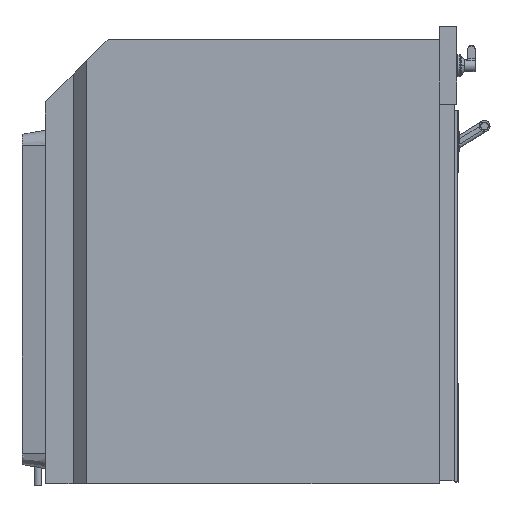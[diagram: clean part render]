
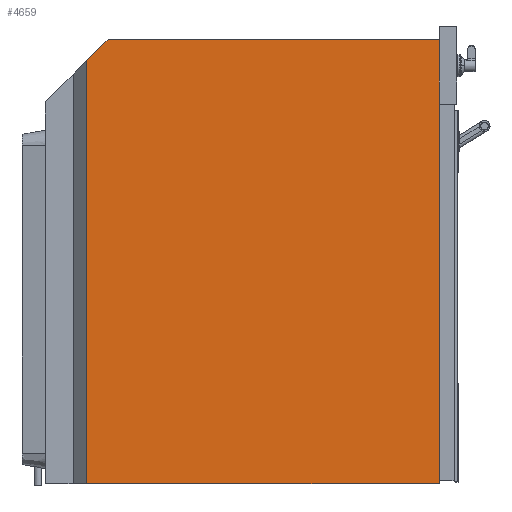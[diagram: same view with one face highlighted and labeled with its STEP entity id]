
A CAD part, left-side view. The second image highlights one B-rep face of the part: STEP entity #4659.
In plain terms, the highlighted planar face has unit normal (-1, 0, 0).
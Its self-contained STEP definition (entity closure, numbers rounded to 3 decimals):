
#230=LINE('',#11903,#566);
#231=LINE('',#11906,#567);
#232=LINE('',#11908,#568);
#233=LINE('',#11910,#569);
#234=LINE('',#11912,#570);
#566=VECTOR('',#6829,1000.);
#567=VECTOR('',#6830,1000.);
#568=VECTOR('',#6831,1000.);
#569=VECTOR('',#6832,1000.);
#570=VECTOR('',#6833,1000.);
#2085=ORIENTED_EDGE('',*,*,#2905,.F.);
#2086=ORIENTED_EDGE('',*,*,#2906,.F.);
#2087=ORIENTED_EDGE('',*,*,#2907,.F.);
#2088=ORIENTED_EDGE('',*,*,#2908,.T.);
#2089=ORIENTED_EDGE('',*,*,#2909,.T.);
#2905=EDGE_CURVE('',#3394,#3395,#230,.T.);
#2906=EDGE_CURVE('',#3396,#3394,#231,.T.);
#2907=EDGE_CURVE('',#3397,#3396,#232,.T.);
#2908=EDGE_CURVE('',#3397,#3398,#233,.T.);
#2909=EDGE_CURVE('',#3398,#3395,#234,.T.);
#3394=VERTEX_POINT('',#11904);
#3395=VERTEX_POINT('',#11905);
#3396=VERTEX_POINT('',#11907);
#3397=VERTEX_POINT('',#11909);
#3398=VERTEX_POINT('',#11911);
#3874=EDGE_LOOP('',(#2085,#2086,#2087,#2088,#2089));
#4196=FACE_BOUND('',#3874,.T.);
#4364=PLANE('',#5972);
#4659=ADVANCED_FACE('',(#4196),#4364,.T.);
#5972=AXIS2_PLACEMENT_3D('',#11902,#6827,#6828);
#6827=DIRECTION('',(-1.,0.,0.));
#6828=DIRECTION('',(0.,-1.,0.));
#6829=DIRECTION('',(0.,1.,0.));
#6830=DIRECTION('',(0.,0.,-1.));
#6831=DIRECTION('',(0.,-1.,0.));
#6832=DIRECTION('',(0.,0.707,-0.707));
#6833=DIRECTION('',(0.,0.,-1.));
#11902=CARTESIAN_POINT('',(-275.3,-9.45,-243.265));
#11903=CARTESIAN_POINT('',(-275.3,-464.45,-243.265));
#11904=CARTESIAN_POINT('',(-275.3,-464.45,-243.265));
#11905=CARTESIAN_POINT('',(-275.3,-9.45,-243.265));
#11906=CARTESIAN_POINT('',(-275.3,-464.45,330.435));
#11907=CARTESIAN_POINT('',(-275.3,-464.45,330.435));
#11908=CARTESIAN_POINT('',(-275.3,-36.95,330.435));
#11909=CARTESIAN_POINT('',(-275.3,-36.95,330.435));
#11910=CARTESIAN_POINT('',(-275.3,-36.95,330.435));
#11911=CARTESIAN_POINT('',(-275.3,-9.45,302.935));
#11912=CARTESIAN_POINT('',(-275.3,-9.45,302.935));
